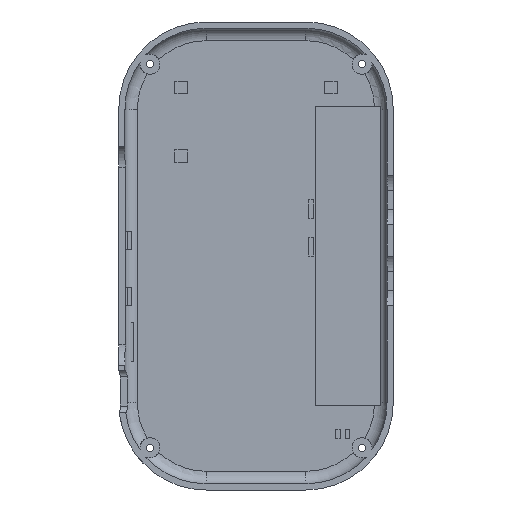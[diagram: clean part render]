
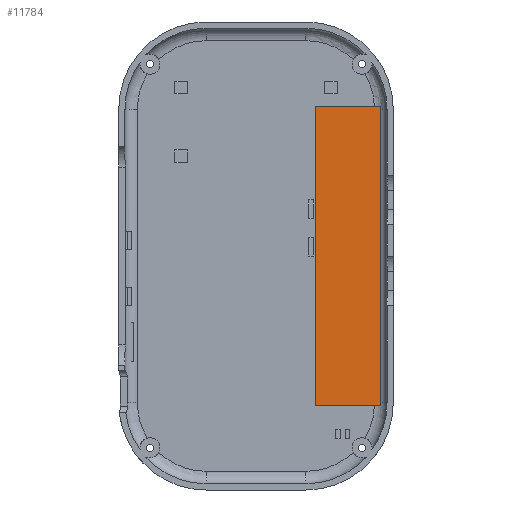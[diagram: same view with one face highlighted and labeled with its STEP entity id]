
A CAD part, front view. The second image highlights one B-rep face of the part: STEP entity #11784.
In plain terms, the highlighted planar face has unit normal (0, -1, 0).
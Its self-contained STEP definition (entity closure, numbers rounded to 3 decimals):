
#3332 = PLANE('',#3333);
#3333 = AXIS2_PLACEMENT_3D('',#3334,#3335,#3336);
#3334 = CARTESIAN_POINT('',(19.,10.5,48.));
#3335 = DIRECTION('',(0.,0.,1.));
#3336 = DIRECTION('',(1.,0.,0.));
#3358 = PLANE('',#3359);
#3359 = AXIS2_PLACEMENT_3D('',#3360,#3361,#3362);
#3360 = CARTESIAN_POINT('',(19.,10.5,-48.));
#3361 = DIRECTION('',(1.,0.,0.));
#3362 = DIRECTION('',(0.,0.,1.));
#3384 = PLANE('',#3385);
#3385 = AXIS2_PLACEMENT_3D('',#3386,#3387,#3388);
#3386 = CARTESIAN_POINT('',(19.,10.5,-48.));
#3387 = DIRECTION('',(0.,0.,1.));
#3388 = DIRECTION('',(1.,0.,0.));
#8164 = PLANE('',#8165);
#8165 = AXIS2_PLACEMENT_3D('',#8166,#8167,#8168);
#8166 = CARTESIAN_POINT('',(40.,10.5,-48.));
#8167 = DIRECTION('',(1.,0.,0.));
#8168 = DIRECTION('',(0.,0.,1.));
#8258 = VERTEX_POINT('',#8259);
#8259 = CARTESIAN_POINT('',(19.,10.5,48.));
#8280 = EDGE_CURVE('',#8258,#8281,#8283,.T.);
#8281 = VERTEX_POINT('',#8282);
#8282 = CARTESIAN_POINT('',(40.,10.5,48.));
#8283 = SURFACE_CURVE('',#8284,(#8288,#8295),.PCURVE_S1.);
#8284 = LINE('',#8285,#8286);
#8285 = CARTESIAN_POINT('',(19.,10.5,48.));
#8286 = VECTOR('',#8287,1.);
#8287 = DIRECTION('',(1.,0.,0.));
#8288 = PCURVE('',#3332,#8289);
#8289 = DEFINITIONAL_REPRESENTATION('',(#8290),#8294);
#8290 = LINE('',#8291,#8292);
#8291 = CARTESIAN_POINT('',(0.,0.));
#8292 = VECTOR('',#8293,1.);
#8293 = DIRECTION('',(1.,0.));
#8294 = ( GEOMETRIC_REPRESENTATION_CONTEXT(2) 
PARAMETRIC_REPRESENTATION_CONTEXT() REPRESENTATION_CONTEXT('2D SPACE',''
  ) );
#8295 = PCURVE('',#8296,#8301);
#8296 = PLANE('',#8297);
#8297 = AXIS2_PLACEMENT_3D('',#8298,#8299,#8300);
#8298 = CARTESIAN_POINT('',(19.,10.5,-48.));
#8299 = DIRECTION('',(0.,1.,0.));
#8300 = DIRECTION('',(0.,0.,1.));
#8301 = DEFINITIONAL_REPRESENTATION('',(#8302),#8306);
#8302 = LINE('',#8303,#8304);
#8303 = CARTESIAN_POINT('',(96.,0.));
#8304 = VECTOR('',#8305,1.);
#8305 = DIRECTION('',(0.,1.));
#8306 = ( GEOMETRIC_REPRESENTATION_CONTEXT(2) 
PARAMETRIC_REPRESENTATION_CONTEXT() REPRESENTATION_CONTEXT('2D SPACE',''
  ) );
#8335 = EDGE_CURVE('',#8336,#8258,#8338,.T.);
#8336 = VERTEX_POINT('',#8337);
#8337 = CARTESIAN_POINT('',(19.,10.5,-48.));
#8338 = SURFACE_CURVE('',#8339,(#8343,#8350),.PCURVE_S1.);
#8339 = LINE('',#8340,#8341);
#8340 = CARTESIAN_POINT('',(19.,10.5,-48.));
#8341 = VECTOR('',#8342,1.);
#8342 = DIRECTION('',(0.,0.,1.));
#8343 = PCURVE('',#3358,#8344);
#8344 = DEFINITIONAL_REPRESENTATION('',(#8345),#8349);
#8345 = LINE('',#8346,#8347);
#8346 = CARTESIAN_POINT('',(0.,0.));
#8347 = VECTOR('',#8348,1.);
#8348 = DIRECTION('',(1.,0.));
#8349 = ( GEOMETRIC_REPRESENTATION_CONTEXT(2) 
PARAMETRIC_REPRESENTATION_CONTEXT() REPRESENTATION_CONTEXT('2D SPACE',''
  ) );
#8350 = PCURVE('',#8296,#8351);
#8351 = DEFINITIONAL_REPRESENTATION('',(#8352),#8356);
#8352 = LINE('',#8353,#8354);
#8353 = CARTESIAN_POINT('',(0.,0.));
#8354 = VECTOR('',#8355,1.);
#8355 = DIRECTION('',(1.,0.));
#8356 = ( GEOMETRIC_REPRESENTATION_CONTEXT(2) 
PARAMETRIC_REPRESENTATION_CONTEXT() REPRESENTATION_CONTEXT('2D SPACE',''
  ) );
#8384 = EDGE_CURVE('',#8336,#8385,#8387,.T.);
#8385 = VERTEX_POINT('',#8386);
#8386 = CARTESIAN_POINT('',(40.,10.5,-48.));
#8387 = SURFACE_CURVE('',#8388,(#8392,#8399),.PCURVE_S1.);
#8388 = LINE('',#8389,#8390);
#8389 = CARTESIAN_POINT('',(19.,10.5,-48.));
#8390 = VECTOR('',#8391,1.);
#8391 = DIRECTION('',(1.,0.,0.));
#8392 = PCURVE('',#3384,#8393);
#8393 = DEFINITIONAL_REPRESENTATION('',(#8394),#8398);
#8394 = LINE('',#8395,#8396);
#8395 = CARTESIAN_POINT('',(0.,0.));
#8396 = VECTOR('',#8397,1.);
#8397 = DIRECTION('',(1.,0.));
#8398 = ( GEOMETRIC_REPRESENTATION_CONTEXT(2) 
PARAMETRIC_REPRESENTATION_CONTEXT() REPRESENTATION_CONTEXT('2D SPACE',''
  ) );
#8399 = PCURVE('',#8296,#8400);
#8400 = DEFINITIONAL_REPRESENTATION('',(#8401),#8405);
#8401 = LINE('',#8402,#8403);
#8402 = CARTESIAN_POINT('',(0.,0.));
#8403 = VECTOR('',#8404,1.);
#8404 = DIRECTION('',(0.,1.));
#8405 = ( GEOMETRIC_REPRESENTATION_CONTEXT(2) 
PARAMETRIC_REPRESENTATION_CONTEXT() REPRESENTATION_CONTEXT('2D SPACE',''
  ) );
#11760 = EDGE_CURVE('',#8385,#8281,#11761,.T.);
#11761 = SURFACE_CURVE('',#11762,(#11766,#11773),.PCURVE_S1.);
#11762 = LINE('',#11763,#11764);
#11763 = CARTESIAN_POINT('',(40.,10.5,-48.));
#11764 = VECTOR('',#11765,1.);
#11765 = DIRECTION('',(0.,0.,1.));
#11766 = PCURVE('',#8164,#11767);
#11767 = DEFINITIONAL_REPRESENTATION('',(#11768),#11772);
#11768 = LINE('',#11769,#11770);
#11769 = CARTESIAN_POINT('',(0.,0.));
#11770 = VECTOR('',#11771,1.);
#11771 = DIRECTION('',(1.,0.));
#11772 = ( GEOMETRIC_REPRESENTATION_CONTEXT(2) 
PARAMETRIC_REPRESENTATION_CONTEXT() REPRESENTATION_CONTEXT('2D SPACE',''
  ) );
#11773 = PCURVE('',#8296,#11774);
#11774 = DEFINITIONAL_REPRESENTATION('',(#11775),#11779);
#11775 = LINE('',#11776,#11777);
#11776 = CARTESIAN_POINT('',(0.,21.));
#11777 = VECTOR('',#11778,1.);
#11778 = DIRECTION('',(1.,0.));
#11779 = ( GEOMETRIC_REPRESENTATION_CONTEXT(2) 
PARAMETRIC_REPRESENTATION_CONTEXT() REPRESENTATION_CONTEXT('2D SPACE',''
  ) );
#11784 = ADVANCED_FACE('',(#11785),#8296,.F.);
#11785 = FACE_BOUND('',#11786,.F.);
#11786 = EDGE_LOOP('',(#11787,#11788,#11789,#11790));
#11787 = ORIENTED_EDGE('',*,*,#8384,.F.);
#11788 = ORIENTED_EDGE('',*,*,#8335,.T.);
#11789 = ORIENTED_EDGE('',*,*,#8280,.T.);
#11790 = ORIENTED_EDGE('',*,*,#11760,.F.);
